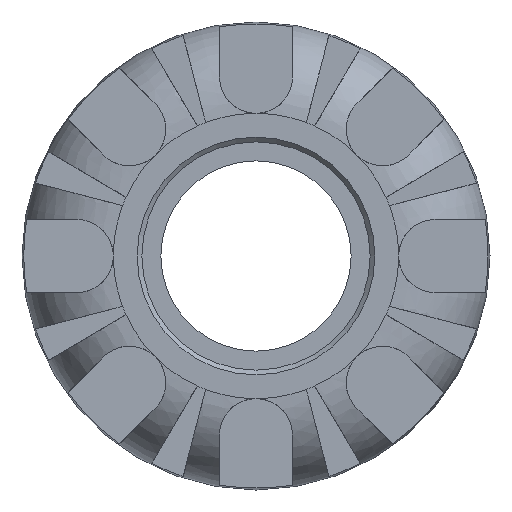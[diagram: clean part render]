
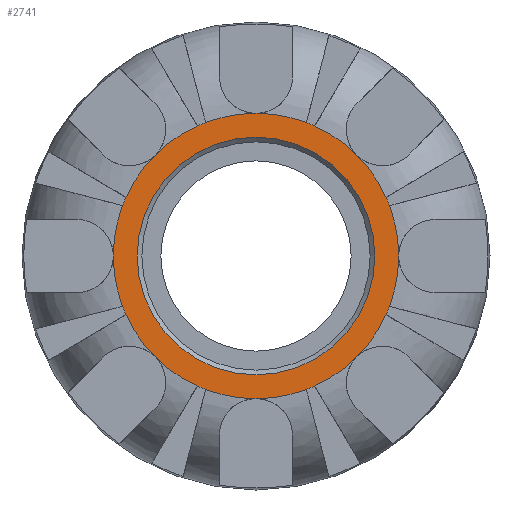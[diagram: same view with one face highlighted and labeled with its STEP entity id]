
A CAD part, left-side view. The second image highlights one B-rep face of the part: STEP entity #2741.
In plain terms, the highlighted planar face has unit normal (-1, 0, 0).
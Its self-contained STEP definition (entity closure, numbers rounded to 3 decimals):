
#22=FACE_BOUND('',#619,.T.);
#47=PLANE('',#2921);
#453=FACE_OUTER_BOUND('',#618,.T.);
#618=EDGE_LOOP('',(#1765,#1766,#1767,#1768,#1769,#1770,#1771,#1772,#1773,
#1774,#1775,#1776,#1777,#1778,#1779,#1780,#1781,#1782,#1783,#1784,#1785,
#1786,#1787,#1788));
#619=EDGE_LOOP('',(#1789));
#796=CIRCLE('',#2920,10.41);
#797=CIRCLE('',#2922,12.5);
#798=CIRCLE('',#2923,12.5);
#799=CIRCLE('',#2924,12.5);
#800=CIRCLE('',#2925,12.5);
#801=CIRCLE('',#2926,12.5);
#802=CIRCLE('',#2927,12.5);
#803=CIRCLE('',#2928,12.5);
#804=CIRCLE('',#2929,12.5);
#805=CIRCLE('',#2930,12.5);
#806=CIRCLE('',#2931,12.5);
#807=CIRCLE('',#2932,12.5);
#808=CIRCLE('',#2933,12.5);
#809=CIRCLE('',#2934,12.5);
#810=CIRCLE('',#2935,12.5);
#811=CIRCLE('',#2936,12.5);
#812=CIRCLE('',#2937,12.5);
#813=CIRCLE('',#2938,12.5);
#814=CIRCLE('',#2939,12.5);
#815=CIRCLE('',#2940,12.5);
#816=CIRCLE('',#2941,12.5);
#817=CIRCLE('',#2942,12.5);
#818=CIRCLE('',#2943,12.5);
#819=CIRCLE('',#2944,12.5);
#820=CIRCLE('',#2945,12.5);
#1066=VERTEX_POINT('',#4271);
#1067=VERTEX_POINT('',#4274);
#1068=VERTEX_POINT('',#4275);
#1069=VERTEX_POINT('',#4277);
#1070=VERTEX_POINT('',#4279);
#1071=VERTEX_POINT('',#4281);
#1072=VERTEX_POINT('',#4283);
#1073=VERTEX_POINT('',#4285);
#1074=VERTEX_POINT('',#4287);
#1075=VERTEX_POINT('',#4289);
#1076=VERTEX_POINT('',#4291);
#1077=VERTEX_POINT('',#4293);
#1078=VERTEX_POINT('',#4295);
#1079=VERTEX_POINT('',#4297);
#1080=VERTEX_POINT('',#4299);
#1081=VERTEX_POINT('',#4301);
#1082=VERTEX_POINT('',#4303);
#1083=VERTEX_POINT('',#4305);
#1084=VERTEX_POINT('',#4307);
#1085=VERTEX_POINT('',#4309);
#1086=VERTEX_POINT('',#4311);
#1087=VERTEX_POINT('',#4313);
#1088=VERTEX_POINT('',#4315);
#1089=VERTEX_POINT('',#4317);
#1090=VERTEX_POINT('',#4319);
#1336=EDGE_CURVE('',#1066,#1066,#796,.T.);
#1337=EDGE_CURVE('',#1067,#1068,#797,.T.);
#1338=EDGE_CURVE('',#1069,#1067,#798,.T.);
#1339=EDGE_CURVE('',#1070,#1069,#799,.T.);
#1340=EDGE_CURVE('',#1071,#1070,#800,.T.);
#1341=EDGE_CURVE('',#1072,#1071,#801,.T.);
#1342=EDGE_CURVE('',#1073,#1072,#802,.T.);
#1343=EDGE_CURVE('',#1074,#1073,#803,.T.);
#1344=EDGE_CURVE('',#1075,#1074,#804,.T.);
#1345=EDGE_CURVE('',#1076,#1075,#805,.T.);
#1346=EDGE_CURVE('',#1077,#1076,#806,.T.);
#1347=EDGE_CURVE('',#1078,#1077,#807,.T.);
#1348=EDGE_CURVE('',#1079,#1078,#808,.T.);
#1349=EDGE_CURVE('',#1080,#1079,#809,.T.);
#1350=EDGE_CURVE('',#1081,#1080,#810,.T.);
#1351=EDGE_CURVE('',#1082,#1081,#811,.T.);
#1352=EDGE_CURVE('',#1083,#1082,#812,.T.);
#1353=EDGE_CURVE('',#1084,#1083,#813,.T.);
#1354=EDGE_CURVE('',#1085,#1084,#814,.T.);
#1355=EDGE_CURVE('',#1086,#1085,#815,.T.);
#1356=EDGE_CURVE('',#1087,#1086,#816,.T.);
#1357=EDGE_CURVE('',#1088,#1087,#817,.T.);
#1358=EDGE_CURVE('',#1089,#1088,#818,.T.);
#1359=EDGE_CURVE('',#1090,#1089,#819,.T.);
#1360=EDGE_CURVE('',#1068,#1090,#820,.T.);
#1765=ORIENTED_EDGE('',*,*,#1337,.F.);
#1766=ORIENTED_EDGE('',*,*,#1338,.F.);
#1767=ORIENTED_EDGE('',*,*,#1339,.F.);
#1768=ORIENTED_EDGE('',*,*,#1340,.F.);
#1769=ORIENTED_EDGE('',*,*,#1341,.F.);
#1770=ORIENTED_EDGE('',*,*,#1342,.F.);
#1771=ORIENTED_EDGE('',*,*,#1343,.F.);
#1772=ORIENTED_EDGE('',*,*,#1344,.F.);
#1773=ORIENTED_EDGE('',*,*,#1345,.F.);
#1774=ORIENTED_EDGE('',*,*,#1346,.F.);
#1775=ORIENTED_EDGE('',*,*,#1347,.F.);
#1776=ORIENTED_EDGE('',*,*,#1348,.F.);
#1777=ORIENTED_EDGE('',*,*,#1349,.F.);
#1778=ORIENTED_EDGE('',*,*,#1350,.F.);
#1779=ORIENTED_EDGE('',*,*,#1351,.F.);
#1780=ORIENTED_EDGE('',*,*,#1352,.F.);
#1781=ORIENTED_EDGE('',*,*,#1353,.F.);
#1782=ORIENTED_EDGE('',*,*,#1354,.F.);
#1783=ORIENTED_EDGE('',*,*,#1355,.F.);
#1784=ORIENTED_EDGE('',*,*,#1356,.F.);
#1785=ORIENTED_EDGE('',*,*,#1357,.F.);
#1786=ORIENTED_EDGE('',*,*,#1358,.F.);
#1787=ORIENTED_EDGE('',*,*,#1359,.F.);
#1788=ORIENTED_EDGE('',*,*,#1360,.F.);
#1789=ORIENTED_EDGE('',*,*,#1336,.F.);
#2741=ADVANCED_FACE('',(#453,#22),#47,.T.);
#2920=AXIS2_PLACEMENT_3D('',#4272,#3271,#3272);
#2921=AXIS2_PLACEMENT_3D('',#4273,#3273,#3274);
#2922=AXIS2_PLACEMENT_3D('',#4276,#3275,#3276);
#2923=AXIS2_PLACEMENT_3D('',#4278,#3277,#3278);
#2924=AXIS2_PLACEMENT_3D('',#4280,#3279,#3280);
#2925=AXIS2_PLACEMENT_3D('',#4282,#3281,#3282);
#2926=AXIS2_PLACEMENT_3D('',#4284,#3283,#3284);
#2927=AXIS2_PLACEMENT_3D('',#4286,#3285,#3286);
#2928=AXIS2_PLACEMENT_3D('',#4288,#3287,#3288);
#2929=AXIS2_PLACEMENT_3D('',#4290,#3289,#3290);
#2930=AXIS2_PLACEMENT_3D('',#4292,#3291,#3292);
#2931=AXIS2_PLACEMENT_3D('',#4294,#3293,#3294);
#2932=AXIS2_PLACEMENT_3D('',#4296,#3295,#3296);
#2933=AXIS2_PLACEMENT_3D('',#4298,#3297,#3298);
#2934=AXIS2_PLACEMENT_3D('',#4300,#3299,#3300);
#2935=AXIS2_PLACEMENT_3D('',#4302,#3301,#3302);
#2936=AXIS2_PLACEMENT_3D('',#4304,#3303,#3304);
#2937=AXIS2_PLACEMENT_3D('',#4306,#3305,#3306);
#2938=AXIS2_PLACEMENT_3D('',#4308,#3307,#3308);
#2939=AXIS2_PLACEMENT_3D('',#4310,#3309,#3310);
#2940=AXIS2_PLACEMENT_3D('',#4312,#3311,#3312);
#2941=AXIS2_PLACEMENT_3D('',#4314,#3313,#3314);
#2942=AXIS2_PLACEMENT_3D('',#4316,#3315,#3316);
#2943=AXIS2_PLACEMENT_3D('',#4318,#3317,#3318);
#2944=AXIS2_PLACEMENT_3D('',#4320,#3319,#3320);
#2945=AXIS2_PLACEMENT_3D('',#4321,#3321,#3322);
#3271=DIRECTION('center_axis',(-1.,0.,0.));
#3272=DIRECTION('ref_axis',(0.,-1.,0.));
#3273=DIRECTION('center_axis',(-1.,0.,0.));
#3274=DIRECTION('ref_axis',(0.,0.,1.));
#3275=DIRECTION('center_axis',(1.,0.,0.));
#3276=DIRECTION('ref_axis',(0.,0.,-1.));
#3277=DIRECTION('center_axis',(1.,0.,0.));
#3278=DIRECTION('ref_axis',(0.,0.,-1.));
#3279=DIRECTION('center_axis',(1.,0.,0.));
#3280=DIRECTION('ref_axis',(0.,0.,-1.));
#3281=DIRECTION('center_axis',(1.,0.,0.));
#3282=DIRECTION('ref_axis',(0.,0.,-1.));
#3283=DIRECTION('center_axis',(1.,0.,0.));
#3284=DIRECTION('ref_axis',(0.,0.,-1.));
#3285=DIRECTION('center_axis',(1.,0.,0.));
#3286=DIRECTION('ref_axis',(0.,0.,-1.));
#3287=DIRECTION('center_axis',(1.,0.,0.));
#3288=DIRECTION('ref_axis',(0.,0.,-1.));
#3289=DIRECTION('center_axis',(1.,0.,0.));
#3290=DIRECTION('ref_axis',(0.,0.,-1.));
#3291=DIRECTION('center_axis',(1.,0.,0.));
#3292=DIRECTION('ref_axis',(0.,0.,-1.));
#3293=DIRECTION('center_axis',(1.,0.,0.));
#3294=DIRECTION('ref_axis',(0.,0.,-1.));
#3295=DIRECTION('center_axis',(1.,0.,0.));
#3296=DIRECTION('ref_axis',(0.,0.,-1.));
#3297=DIRECTION('center_axis',(1.,0.,0.));
#3298=DIRECTION('ref_axis',(0.,0.,-1.));
#3299=DIRECTION('center_axis',(1.,0.,0.));
#3300=DIRECTION('ref_axis',(0.,0.,-1.));
#3301=DIRECTION('center_axis',(1.,0.,0.));
#3302=DIRECTION('ref_axis',(0.,0.,-1.));
#3303=DIRECTION('center_axis',(1.,0.,0.));
#3304=DIRECTION('ref_axis',(0.,0.,-1.));
#3305=DIRECTION('center_axis',(1.,0.,0.));
#3306=DIRECTION('ref_axis',(0.,0.,-1.));
#3307=DIRECTION('center_axis',(1.,0.,0.));
#3308=DIRECTION('ref_axis',(0.,0.,-1.));
#3309=DIRECTION('center_axis',(1.,0.,0.));
#3310=DIRECTION('ref_axis',(0.,0.,-1.));
#3311=DIRECTION('center_axis',(1.,0.,0.));
#3312=DIRECTION('ref_axis',(0.,0.,-1.));
#3313=DIRECTION('center_axis',(1.,0.,0.));
#3314=DIRECTION('ref_axis',(0.,0.,-1.));
#3315=DIRECTION('center_axis',(1.,0.,0.));
#3316=DIRECTION('ref_axis',(0.,0.,-1.));
#3317=DIRECTION('center_axis',(1.,0.,0.));
#3318=DIRECTION('ref_axis',(0.,0.,-1.));
#3319=DIRECTION('center_axis',(1.,0.,0.));
#3320=DIRECTION('ref_axis',(0.,0.,-1.));
#3321=DIRECTION('center_axis',(1.,0.,0.));
#3322=DIRECTION('ref_axis',(0.,0.,-1.));
#4271=CARTESIAN_POINT('',(-46.,10.41,0.));
#4272=CARTESIAN_POINT('Origin',(-46.,0.,0.));
#4273=CARTESIAN_POINT('Origin',(-46.,12.5,0.));
#4274=CARTESIAN_POINT('',(-46.,12.5,0.));
#4275=CARTESIAN_POINT('',(-46.,11.696,4.412));
#4276=CARTESIAN_POINT('Origin',(-46.,0.,0.));
#4277=CARTESIAN_POINT('',(-46.,11.696,-4.412));
#4278=CARTESIAN_POINT('Origin',(-46.,0.,0.));
#4279=CARTESIAN_POINT('',(-46.,11.39,-5.151));
#4280=CARTESIAN_POINT('Origin',(-46.,0.,0.));
#4281=CARTESIAN_POINT('',(-46.,8.839,-8.839));
#4282=CARTESIAN_POINT('Origin',(-46.,0.,0.));
#4283=CARTESIAN_POINT('',(-46.,5.151,-11.39));
#4284=CARTESIAN_POINT('Origin',(-46.,0.,0.));
#4285=CARTESIAN_POINT('',(-46.,4.412,-11.696));
#4286=CARTESIAN_POINT('Origin',(-46.,0.,0.));
#4287=CARTESIAN_POINT('',(-46.,0.,-12.5));
#4288=CARTESIAN_POINT('Origin',(-46.,0.,0.));
#4289=CARTESIAN_POINT('',(-46.,-4.412,-11.696));
#4290=CARTESIAN_POINT('Origin',(-46.,0.,0.));
#4291=CARTESIAN_POINT('',(-46.,-5.151,-11.39));
#4292=CARTESIAN_POINT('Origin',(-46.,0.,0.));
#4293=CARTESIAN_POINT('',(-46.,-8.839,-8.839));
#4294=CARTESIAN_POINT('Origin',(-46.,0.,0.));
#4295=CARTESIAN_POINT('',(-46.,-11.39,-5.151));
#4296=CARTESIAN_POINT('Origin',(-46.,0.,0.));
#4297=CARTESIAN_POINT('',(-46.,-11.696,-4.412));
#4298=CARTESIAN_POINT('Origin',(-46.,0.,0.));
#4299=CARTESIAN_POINT('',(-46.,-12.5,0.));
#4300=CARTESIAN_POINT('Origin',(-46.,0.,0.));
#4301=CARTESIAN_POINT('',(-46.,-11.696,4.412));
#4302=CARTESIAN_POINT('Origin',(-46.,0.,0.));
#4303=CARTESIAN_POINT('',(-46.,-11.39,5.151));
#4304=CARTESIAN_POINT('Origin',(-46.,0.,0.));
#4305=CARTESIAN_POINT('',(-46.,-8.839,8.839));
#4306=CARTESIAN_POINT('Origin',(-46.,0.,0.));
#4307=CARTESIAN_POINT('',(-46.,-5.151,11.39));
#4308=CARTESIAN_POINT('Origin',(-46.,0.,0.));
#4309=CARTESIAN_POINT('',(-46.,-4.412,11.696));
#4310=CARTESIAN_POINT('Origin',(-46.,0.,0.));
#4311=CARTESIAN_POINT('',(-46.,0.,12.5));
#4312=CARTESIAN_POINT('Origin',(-46.,0.,0.));
#4313=CARTESIAN_POINT('',(-46.,4.412,11.696));
#4314=CARTESIAN_POINT('Origin',(-46.,0.,0.));
#4315=CARTESIAN_POINT('',(-46.,5.151,11.39));
#4316=CARTESIAN_POINT('Origin',(-46.,0.,0.));
#4317=CARTESIAN_POINT('',(-46.,8.839,8.839));
#4318=CARTESIAN_POINT('Origin',(-46.,0.,0.));
#4319=CARTESIAN_POINT('',(-46.,11.39,5.151));
#4320=CARTESIAN_POINT('Origin',(-46.,0.,0.));
#4321=CARTESIAN_POINT('Origin',(-46.,0.,0.));
